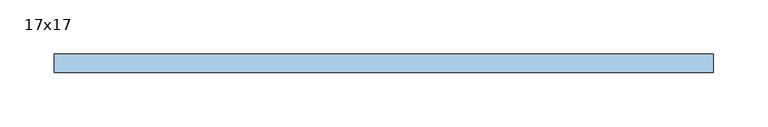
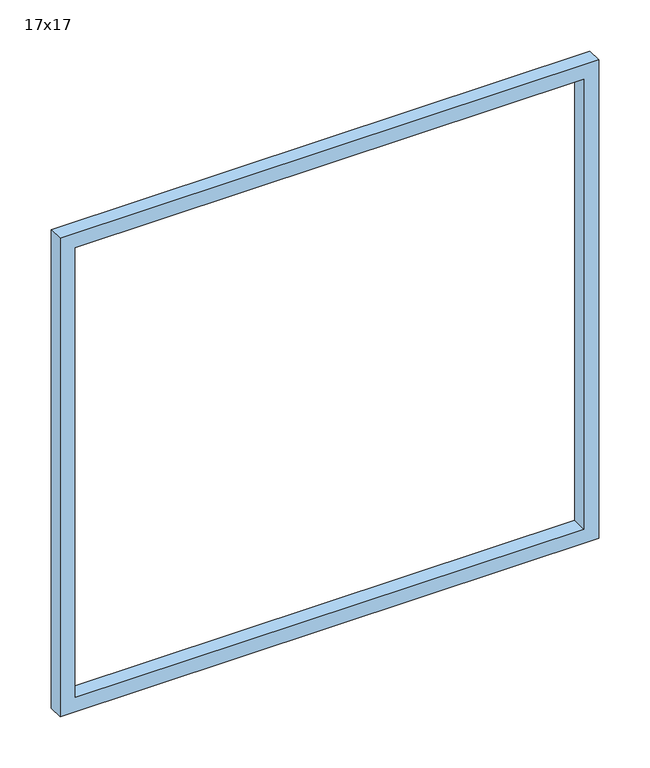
"""IFC4 building model written with IfcOpenShell, lengths in millimetres: window geometry, NLRS_30_WIN_glaslat-raam_sh_gen_TOBA-JM : 17x17."""

from ifc_helpers import new_model, si_unit, frame, origin, place, context, project, spatial, polyline, outline, extrude, source, transform, mapped, element, save


def window_17x17_4fd7d2a2(model_context):
    return source(origin(), model_context, "Body", "SweptSolid", [
        extrude(outline(polyline([(636.0, 303.0), (636.0, -303.0), (67.0, -303.0), (67.0, 303.0), (636.0, 303.0)]), holes=[polyline([(84.0, 286.0), (84.0, -286.0), (619.0, -286.0), (619.0, 286.0), (84.0, 286.0)])]), frame((0.0, 45.0, 0.0), z_axis=(0.0, 1.0, 0.0), x_axis=(0.0, 0.0, 1.0)), (0.0, 0.0, 1.0), 17.0),
    ])


if __name__ == "__main__":
    model = new_model("IFC4")
    model_context = context("Model", 3, world=origin())
    ifc_project = project(units=[si_unit("LENGTHUNIT", "METRE", prefix="MILLI")], contexts=[model_context])
    site = spatial("IfcSite", under=ifc_project)
    building = spatial("IfcBuilding", under=site)
    placement = place(None, origin())
    window_17x17_shape = window_17x17_4fd7d2a2(model_context)
    element("IfcWindow", 1, ObjectType="NLRS_30_WIN_glaslat-raam_sh_gen_TOBA-JM : 17x17", at=placement, inside=building, context=model_context, shape_type="MappedRepresentation", body=[
        mapped(window_17x17_shape, transform((0.0, 0.0, 0.0), x_axis=(1.0, 0.0, 0.0), y_axis=(0.0, 1.0, 0.0), z_axis=(0.0, 0.0, 1.0))),
    ])
    save(model, "model.ifc")
